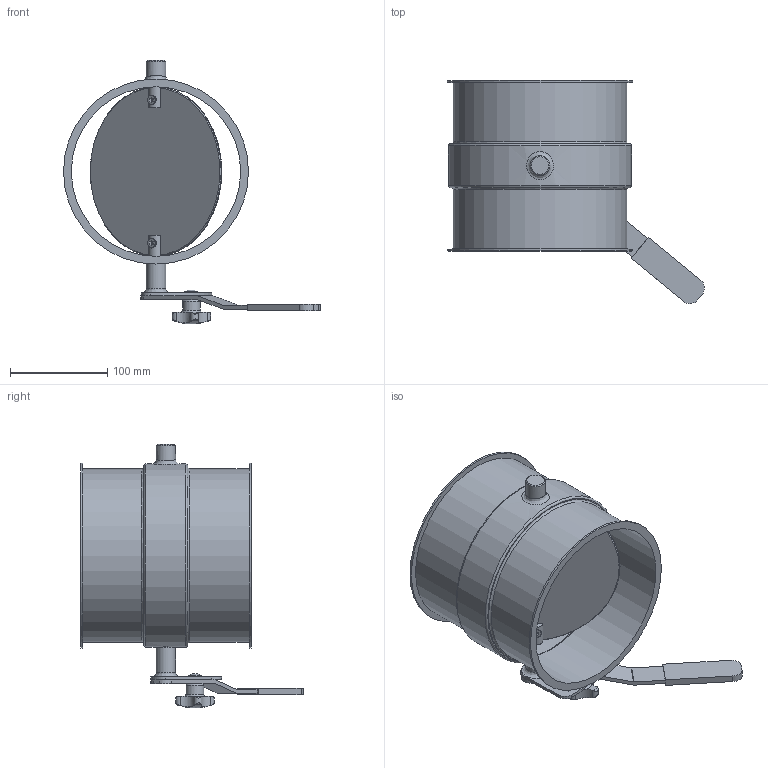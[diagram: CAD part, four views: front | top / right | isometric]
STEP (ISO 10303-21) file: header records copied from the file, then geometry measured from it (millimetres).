
FILE_DESCRIPTION((''),'2;1');
FILE_NAME('U:\Wolfgang\Marcel-3D\fertig\Kapitel 8\1721076.stp','2011-05-03T15:01:39',('TK1'),(''),'Autodesk Inventor 2010','Autodesk Inventor 2010','');
FILE_SCHEMA(('AUTOMOTIVE_DESIGN { 1 0 10303 214 1 1 1 1 }'));
Length unit declared in the file: millimetre
Products named in the file (9): 1721076; Bolzen D15; ganter_din_6335-ku-40-m8-k; Griff D15; Umstellsegment D15; Scheibe170b; DIN 6912 M6 x 16; DIN 603 M5 x 25; 1721076-1
Assembly tree (9 placements, depth 2):
  1721076
    Bolzen D15
    ganter_din_6335-ku-40-m8-k
    Griff D15
    Umstellsegment D15
    Scheibe170b
    DIN 6912 M6 x 16  x2
    DIN 603 M5 x 25
    1721076-1
Bounding box: 263.93 x 228.78 x 271 mm (x, y, z)
Volume: 461525.1 mm3; surface area: 348683.1 mm2
Topology: 9 solids, 9 shells, 182 faces, 429 edges, 280 vertices
Faces by surface type: plane 77, cylinder 62, cone 16, torus 13, bspline 12, sphere 2
Full cylindrical faces by diameter (mm): 3 x2, 5 x1, 6 x6, 6.4 x1, 7 x1, 10 x4, 13 x1, 13.55 x1, 15 x8, 18 x1, 20 x3, 174 x3, 175 x1, 178 x2, 183 x1, 184 x1, 188 x1, 190 x2
Entity records: 5993 total; most frequent: CARTESIAN_POINT 2200, DIRECTION 746, ORIENTED_EDGE 632, AXIS2_PLACEMENT_3D 320, EDGE_CURVE 316, EDGE_LOOP 269, VERTEX_POINT 241, FACE_OUTER_BOUND 167
